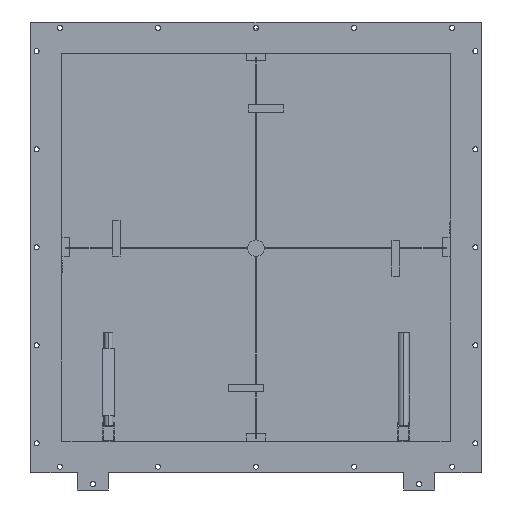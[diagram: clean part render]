
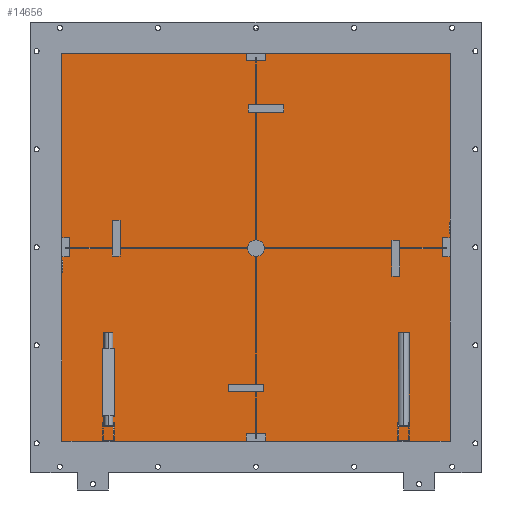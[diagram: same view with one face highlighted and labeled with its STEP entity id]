
A CAD part, front view. The second image highlights one B-rep face of the part: STEP entity #14656.
In plain terms, the highlighted planar face has unit normal (0, -1, 0).
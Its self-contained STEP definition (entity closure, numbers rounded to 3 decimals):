
#2788=DIRECTION('',(0.,0.,-1.));
#2789=VECTOR('',#2788,1036.);
#2790=CARTESIAN_POINT('',(518.,70.,515.5));
#2791=LINE('',#2790,#2789);
#2796=CARTESIAN_POINT('',(0.,70.,-2.5));
#2797=DIRECTION('',(0.,1.,0.));
#2798=DIRECTION('',(0.,0.,1.));
#2799=AXIS2_PLACEMENT_3D('',#2796,#2797,#2798);
#2801=CARTESIAN_POINT('',(0.,70.,-2.5));
#2802=DIRECTION('',(0.,1.,0.));
#2803=DIRECTION('',(0.,0.,-1.));
#2804=AXIS2_PLACEMENT_3D('',#2801,#2802,#2803);
#2806=DIRECTION('',(0.,0.,-1.));
#2807=VECTOR('',#2806,92.);
#2808=CARTESIAN_POINT('',(-370.,70.,69.5));
#2809=LINE('',#2808,#2807);
#2810=DIRECTION('',(1.,0.,0.));
#2811=VECTOR('',#2810,20.);
#2812=CARTESIAN_POINT('',(-370.,70.,-22.5));
#2813=LINE('',#2812,#2811);
#2814=DIRECTION('',(0.,0.,1.));
#2815=VECTOR('',#2814,92.);
#2816=CARTESIAN_POINT('',(-350.,70.,-22.5));
#2817=LINE('',#2816,#2815);
#2818=DIRECTION('',(-1.,0.,0.));
#2819=VECTOR('',#2818,20.);
#2820=CARTESIAN_POINT('',(-350.,70.,69.5));
#2821=LINE('',#2820,#2819);
#2822=DIRECTION('',(0.,0.,-1.));
#2823=VECTOR('',#2822,20.);
#2824=CARTESIAN_POINT('',(-20.,70.,367.5));
#2825=LINE('',#2824,#2823);
#2826=DIRECTION('',(1.,0.,0.));
#2827=VECTOR('',#2826,92.);
#2828=CARTESIAN_POINT('',(-20.,70.,347.5));
#2829=LINE('',#2828,#2827);
#2830=DIRECTION('',(0.,0.,1.));
#2831=VECTOR('',#2830,20.);
#2832=CARTESIAN_POINT('',(72.,70.,347.5));
#2833=LINE('',#2832,#2831);
#2834=DIRECTION('',(-1.,0.,0.));
#2835=VECTOR('',#2834,92.);
#2836=CARTESIAN_POINT('',(72.,70.,367.5));
#2837=LINE('',#2836,#2835);
#2838=DIRECTION('',(0.,0.,-1.));
#2839=VECTOR('',#2838,92.);
#2840=CARTESIAN_POINT('',(350.,70.,17.5));
#2841=LINE('',#2840,#2839);
#2842=DIRECTION('',(1.,0.,0.));
#2843=VECTOR('',#2842,20.);
#2844=CARTESIAN_POINT('',(350.,70.,-74.5));
#2845=LINE('',#2844,#2843);
#2846=DIRECTION('',(0.,0.,1.));
#2847=VECTOR('',#2846,92.);
#2848=CARTESIAN_POINT('',(370.,70.,-74.5));
#2849=LINE('',#2848,#2847);
#2850=DIRECTION('',(-1.,0.,0.));
#2851=VECTOR('',#2850,20.);
#2852=CARTESIAN_POINT('',(370.,70.,17.5));
#2853=LINE('',#2852,#2851);
#2854=DIRECTION('',(-1.,0.,0.));
#2855=VECTOR('',#2854,92.);
#2856=CARTESIAN_POINT('',(20.,70.,-352.5));
#2857=LINE('',#2856,#2855);
#2858=DIRECTION('',(0.,0.,-1.));
#2859=VECTOR('',#2858,20.);
#2860=CARTESIAN_POINT('',(-72.,70.,-352.5));
#2861=LINE('',#2860,#2859);
#2862=DIRECTION('',(1.,0.,0.));
#2863=VECTOR('',#2862,92.);
#2864=CARTESIAN_POINT('',(-72.,70.,-372.5));
#2865=LINE('',#2864,#2863);
#2866=DIRECTION('',(0.,0.,1.));
#2867=VECTOR('',#2866,20.);
#2868=CARTESIAN_POINT('',(20.,70.,-372.5));
#2869=LINE('',#2868,#2867);
#2870=DIRECTION('',(-1.,0.,0.));
#2871=VECTOR('',#2870,1036.);
#2872=CARTESIAN_POINT('',(518.,70.,-520.5));
#2873=LINE('',#2872,#2871);
#2878=DIRECTION('',(0.,0.,1.));
#2879=VECTOR('',#2878,1036.);
#2880=CARTESIAN_POINT('',(-518.,70.,-520.5));
#2881=LINE('',#2880,#2879);
#2886=DIRECTION('',(1.,0.,0.));
#2887=VECTOR('',#2886,1036.);
#2888=CARTESIAN_POINT('',(-518.,70.,515.5));
#2889=LINE('',#2888,#2887);
#10614=CARTESIAN_POINT('',(518.,70.,515.5));
#10615=CARTESIAN_POINT('',(518.,70.,-520.5));
#10616=VERTEX_POINT('',#10614);
#10617=VERTEX_POINT('',#10615);
#10618=CARTESIAN_POINT('',(-518.,70.,-520.5));
#10619=VERTEX_POINT('',#10618);
#10620=CARTESIAN_POINT('',(-518.,70.,515.5));
#10621=VERTEX_POINT('',#10620);
#10874=CARTESIAN_POINT('',(0.,70.,18.7));
#10875=CARTESIAN_POINT('',(0.,70.,-23.7));
#10876=VERTEX_POINT('',#10874);
#10877=VERTEX_POINT('',#10875);
#10912=CARTESIAN_POINT('',(-370.,70.,69.5));
#10913=CARTESIAN_POINT('',(-370.,70.,-22.5));
#10914=VERTEX_POINT('',#10912);
#10915=VERTEX_POINT('',#10913);
#10916=CARTESIAN_POINT('',(-350.,70.,-22.5));
#10917=VERTEX_POINT('',#10916);
#10918=CARTESIAN_POINT('',(-350.,70.,69.5));
#10919=VERTEX_POINT('',#10918);
#10920=CARTESIAN_POINT('',(-20.,70.,367.5));
#10921=CARTESIAN_POINT('',(-20.,70.,347.5));
#10922=VERTEX_POINT('',#10920);
#10923=VERTEX_POINT('',#10921);
#10924=CARTESIAN_POINT('',(72.,70.,347.5));
#10925=VERTEX_POINT('',#10924);
#10926=CARTESIAN_POINT('',(72.,70.,367.5));
#10927=VERTEX_POINT('',#10926);
#10928=CARTESIAN_POINT('',(350.,70.,17.5));
#10929=CARTESIAN_POINT('',(350.,70.,-74.5));
#10930=VERTEX_POINT('',#10928);
#10931=VERTEX_POINT('',#10929);
#10932=CARTESIAN_POINT('',(370.,70.,-74.5));
#10933=VERTEX_POINT('',#10932);
#10934=CARTESIAN_POINT('',(370.,70.,17.5));
#10935=VERTEX_POINT('',#10934);
#10936=CARTESIAN_POINT('',(20.,70.,-352.5));
#10937=CARTESIAN_POINT('',(-72.,70.,-352.5));
#10938=VERTEX_POINT('',#10936);
#10939=VERTEX_POINT('',#10937);
#10940=CARTESIAN_POINT('',(-72.,70.,-372.5));
#10941=VERTEX_POINT('',#10940);
#10942=CARTESIAN_POINT('',(20.,70.,-372.5));
#10943=VERTEX_POINT('',#10942);
#14596=CARTESIAN_POINT('',(0.,70.,0.));
#14597=DIRECTION('',(0.,1.,0.));
#14598=DIRECTION('',(0.,0.,-1.));
#14599=AXIS2_PLACEMENT_3D('',#14596,#14597,#14598);
#14600=PLANE('',#14599);
#14601=ORIENTED_EDGE('',*,*,#14586,.T.);
#14603=ORIENTED_EDGE('',*,*,#14602,.T.);
#14605=ORIENTED_EDGE('',*,*,#14604,.T.);
#14607=ORIENTED_EDGE('',*,*,#14606,.T.);
#14608=EDGE_LOOP('',(#14601,#14603,#14605,#14607));
#14609=FACE_OUTER_BOUND('',#14608,.F.);
#14611=ORIENTED_EDGE('',*,*,#14610,.F.);
#14613=ORIENTED_EDGE('',*,*,#14612,.F.);
#14614=EDGE_LOOP('',(#14611,#14613));
#14615=FACE_BOUND('',#14614,.F.);
#14617=ORIENTED_EDGE('',*,*,#14616,.T.);
#14619=ORIENTED_EDGE('',*,*,#14618,.T.);
#14621=ORIENTED_EDGE('',*,*,#14620,.T.);
#14623=ORIENTED_EDGE('',*,*,#14622,.T.);
#14624=EDGE_LOOP('',(#14617,#14619,#14621,#14623));
#14625=FACE_BOUND('',#14624,.F.);
#14627=ORIENTED_EDGE('',*,*,#14626,.T.);
#14629=ORIENTED_EDGE('',*,*,#14628,.T.);
#14631=ORIENTED_EDGE('',*,*,#14630,.T.);
#14633=ORIENTED_EDGE('',*,*,#14632,.T.);
#14634=EDGE_LOOP('',(#14627,#14629,#14631,#14633));
#14635=FACE_BOUND('',#14634,.F.);
#14637=ORIENTED_EDGE('',*,*,#14636,.T.);
#14639=ORIENTED_EDGE('',*,*,#14638,.T.);
#14641=ORIENTED_EDGE('',*,*,#14640,.T.);
#14643=ORIENTED_EDGE('',*,*,#14642,.T.);
#14644=EDGE_LOOP('',(#14637,#14639,#14641,#14643));
#14645=FACE_BOUND('',#14644,.F.);
#14647=ORIENTED_EDGE('',*,*,#14646,.T.);
#14649=ORIENTED_EDGE('',*,*,#14648,.T.);
#14651=ORIENTED_EDGE('',*,*,#14650,.T.);
#14653=ORIENTED_EDGE('',*,*,#14652,.T.);
#14654=EDGE_LOOP('',(#14647,#14649,#14651,#14653));
#14655=FACE_BOUND('',#14654,.F.);
#2800=CIRCLE('',#2799,21.2);
#2805=CIRCLE('',#2804,21.2);
#14586=EDGE_CURVE('',#10616,#10617,#2791,.T.);
#14602=EDGE_CURVE('',#10617,#10619,#2873,.T.);
#14604=EDGE_CURVE('',#10619,#10621,#2881,.T.);
#14606=EDGE_CURVE('',#10621,#10616,#2889,.T.);
#14610=EDGE_CURVE('',#10876,#10877,#2800,.T.);
#14612=EDGE_CURVE('',#10877,#10876,#2805,.T.);
#14616=EDGE_CURVE('',#10914,#10915,#2809,.T.);
#14618=EDGE_CURVE('',#10915,#10917,#2813,.T.);
#14620=EDGE_CURVE('',#10917,#10919,#2817,.T.);
#14622=EDGE_CURVE('',#10919,#10914,#2821,.T.);
#14626=EDGE_CURVE('',#10922,#10923,#2825,.T.);
#14628=EDGE_CURVE('',#10923,#10925,#2829,.T.);
#14630=EDGE_CURVE('',#10925,#10927,#2833,.T.);
#14632=EDGE_CURVE('',#10927,#10922,#2837,.T.);
#14636=EDGE_CURVE('',#10930,#10931,#2841,.T.);
#14638=EDGE_CURVE('',#10931,#10933,#2845,.T.);
#14640=EDGE_CURVE('',#10933,#10935,#2849,.T.);
#14642=EDGE_CURVE('',#10935,#10930,#2853,.T.);
#14646=EDGE_CURVE('',#10938,#10939,#2857,.T.);
#14648=EDGE_CURVE('',#10939,#10941,#2861,.T.);
#14650=EDGE_CURVE('',#10941,#10943,#2865,.T.);
#14652=EDGE_CURVE('',#10943,#10938,#2869,.T.);
#14656=ADVANCED_FACE('',(#14609,#14615,#14625,#14635,#14645,#14655),#14600,.F.);
